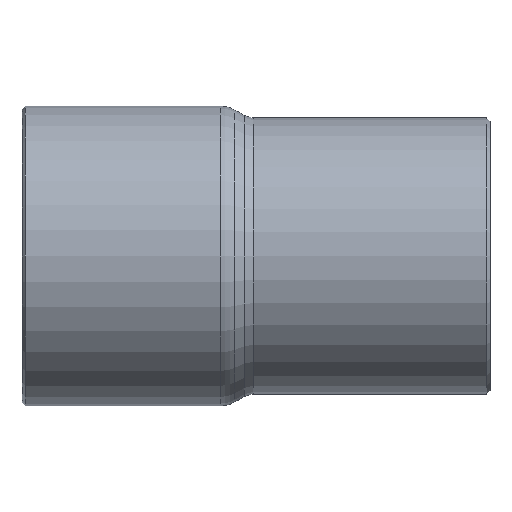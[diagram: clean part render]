
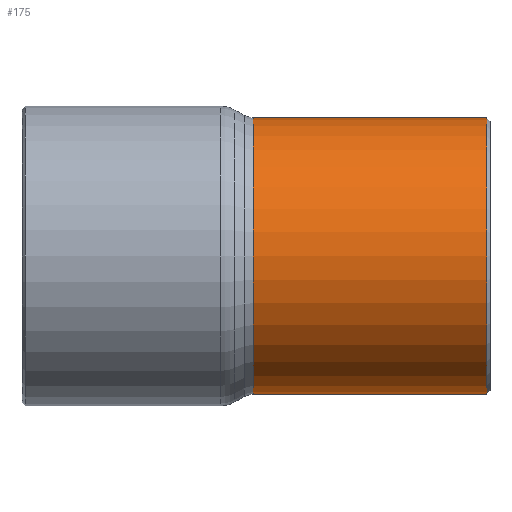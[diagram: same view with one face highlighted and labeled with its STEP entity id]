
A CAD part, front view. The second image highlights one B-rep face of the part: STEP entity #175.
In plain terms, the highlighted cylindrical face has radius 7.935 mm (diameter 15.87 mm), a full revolution.
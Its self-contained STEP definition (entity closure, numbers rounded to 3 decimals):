
#141=CARTESIAN_POINT('',(13.414,7.935,0.));
#142=VERTEX_POINT('',#141);
#143=CARTESIAN_POINT('',(13.414,0.0,0.0));
#144=DIRECTION('',(1.0,0.0,0.0));
#145=DIRECTION('',(0.0,-1.0,0.0));
#146=AXIS2_PLACEMENT_3D('',#143,#144,#145);
#147=CIRCLE('',#146,7.935);
#148=EDGE_CURVE('',#142,#142,#147,.T.);
#156=CARTESIAN_POINT('',(6.807,0.0,0.0));
#157=DIRECTION('',(1.0,0.0,0.0));
#158=DIRECTION('',(0.0,1.0,0.0));
#159=AXIS2_PLACEMENT_3D('',#156,#157,#158);
#160=CYLINDRICAL_SURFACE('',#159,7.935);
#161=CARTESIAN_POINT('',(0.,7.935,0.0));
#162=VERTEX_POINT('',#161);
#163=CARTESIAN_POINT('',(0.,0.0,0.0));
#164=DIRECTION('',(1.0,0.0,0.0));
#165=DIRECTION('',(0.0,1.0,0.0));
#166=AXIS2_PLACEMENT_3D('',#163,#164,#165);
#167=CIRCLE('',#166,7.935);
#168=EDGE_CURVE('',#162,#162,#167,.T.);
#169=ORIENTED_EDGE('',*,*,#168,.T.);
#170=EDGE_LOOP('',(#169));
#171=FACE_OUTER_BOUND('',#170,.T.);
#172=ORIENTED_EDGE('',*,*,#148,.F.);
#173=EDGE_LOOP('',(#172));
#174=FACE_BOUND('',#173,.T.);
#175=ADVANCED_FACE('',(#171,#174),#160,.T.);
